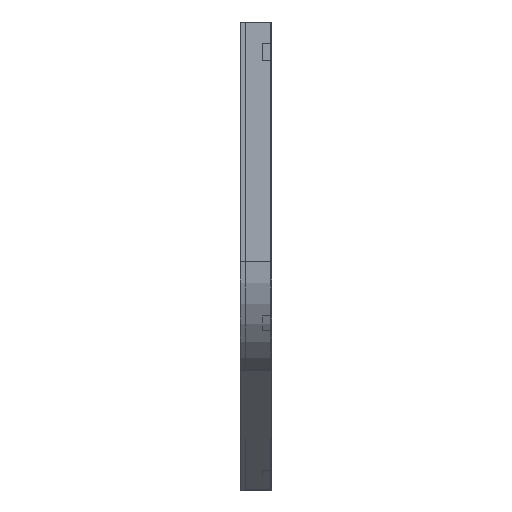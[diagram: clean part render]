
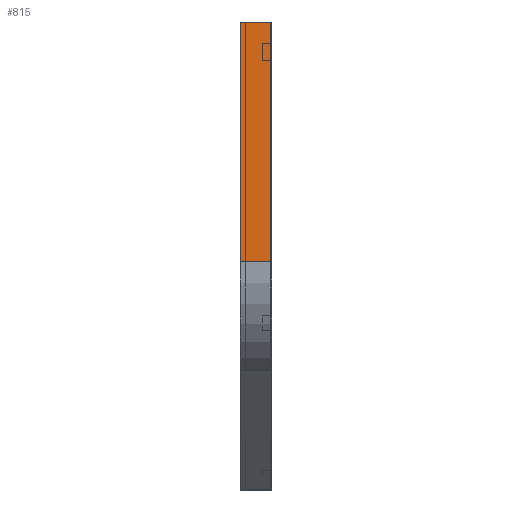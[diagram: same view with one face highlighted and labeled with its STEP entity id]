
A CAD part, left-side view. The second image highlights one B-rep face of the part: STEP entity #815.
In plain terms, the highlighted planar face has unit normal (-1, 0, 0).
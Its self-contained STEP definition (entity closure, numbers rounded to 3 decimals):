
#8 = DIRECTION ( 'NONE',  ( 0., 0., -1. ) ) ;
#33 = DIRECTION ( 'NONE',  ( 0., 0., -1. ) ) ;
#59 = ORIENTED_EDGE ( 'NONE', *, *, #1780, .F. ) ;
#192 = AXIS2_PLACEMENT_3D ( 'NONE', #1595, #607, #8 ) ;
#281 = LINE ( 'NONE', #289, #801 ) ;
#289 = CARTESIAN_POINT ( 'NONE',  ( 0., 0., -569.615 ) ) ;
#306 = DIRECTION ( 'NONE',  ( 0., -1., 0. ) ) ;
#321 = CARTESIAN_POINT ( 'NONE',  ( 0., 0., 0. ) ) ;
#360 = VECTOR ( 'NONE', #306, 1000. ) ;
#448 = VERTEX_POINT ( 'NONE', #771 ) ;
#607 = DIRECTION ( 'NONE',  ( 1., 0., 0. ) ) ;
#611 = CARTESIAN_POINT ( 'NONE',  ( 0., 75., 0. ) ) ;
#671 = LINE ( 'NONE', #321, #1100 ) ;
#771 = CARTESIAN_POINT ( 'NONE',  ( 0., 0., -569.615 ) ) ;
#776 = EDGE_CURVE ( 'NONE', #1749, #1038, #1448, .T. ) ;
#779 = EDGE_CURVE ( 'NONE', #1071, #448, #281, .T. ) ;
#801 = VECTOR ( 'NONE', #1430, 1000. ) ;
#815 = ADVANCED_FACE ( 'NONE', ( #1899 ), #1878, .F. ) ;
#911 = ORIENTED_EDGE ( 'NONE', *, *, #1688, .T. ) ;
#949 = VECTOR ( 'NONE', #1247, 1000. ) ;
#954 = CARTESIAN_POINT ( 'NONE',  ( 0., 75., 0. ) ) ;
#977 = ORIENTED_EDGE ( 'NONE', *, *, #779, .T. ) ;
#1038 = VERTEX_POINT ( 'NONE', #1844 ) ;
#1071 = VERTEX_POINT ( 'NONE', #1381 ) ;
#1100 = VECTOR ( 'NONE', #33, 1000. ) ;
#1247 = DIRECTION ( 'NONE',  ( 0., 0., -1. ) ) ;
#1381 = CARTESIAN_POINT ( 'NONE',  ( 0., 75., -569.615 ) ) ;
#1430 = DIRECTION ( 'NONE',  ( 0., -1., 0. ) ) ;
#1448 = LINE ( 'NONE', #1603, #360 ) ;
#1570 = ORIENTED_EDGE ( 'NONE', *, *, #776, .F. ) ;
#1595 = CARTESIAN_POINT ( 'NONE',  ( 0., 0., 0. ) ) ;
#1603 = CARTESIAN_POINT ( 'NONE',  ( 0., 0., 0. ) ) ;
#1688 = EDGE_CURVE ( 'NONE', #1749, #1071, #1890, .T. ) ;
#1749 = VERTEX_POINT ( 'NONE', #954 ) ;
#1780 = EDGE_CURVE ( 'NONE', #1038, #448, #671, .T. ) ;
#1794 = EDGE_LOOP ( 'NONE', ( #59, #1570, #911, #977 ) ) ;
#1844 = CARTESIAN_POINT ( 'NONE',  ( 0., 0., 0. ) ) ;
#1878 = PLANE ( 'NONE',  #192 ) ;
#1890 = LINE ( 'NONE', #611, #949 ) ;
#1899 = FACE_OUTER_BOUND ( 'NONE', #1794, .T. ) ;
